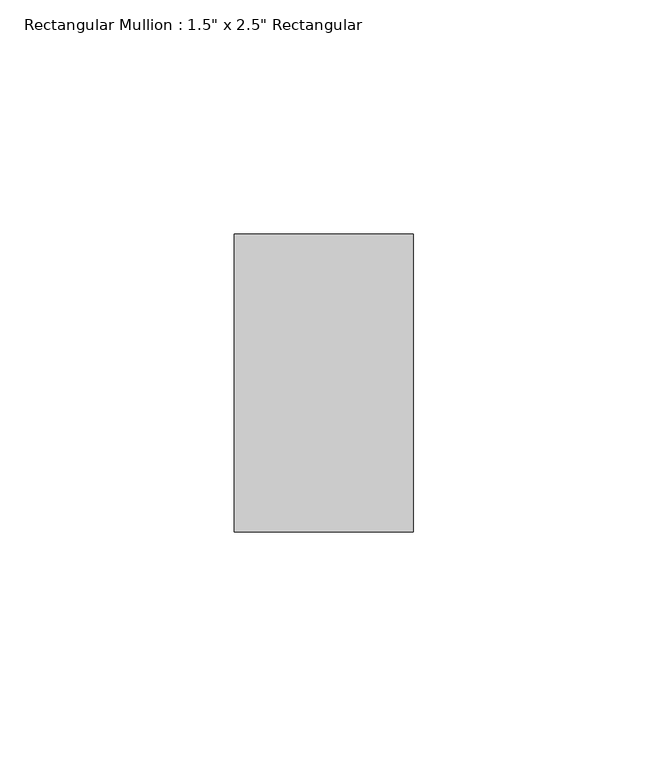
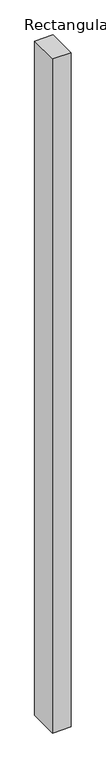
"""IFC4 building model written with IfcOpenShell, lengths in millimetres: member geometry."""

from ifc_helpers import new_model, si_unit, frame, origin, place, context, project, spatial, polyline, outline, extrude, source, transform, mapped, element, save


def member_b8a5b5c0(model_context):
    return source(origin(), model_context, "Body", "SweptSolid", [
        extrude(outline(polyline([(0.0, 31.75), (0.0, -31.75), (-38.1, -31.75), (-38.1, 31.75), (0.0, 31.75)])), frame((0.0, 0.0, -1466.85), z_axis=(0.0, 0.0, 1.0), x_axis=(1.0, 0.0, 0.0)), (0.0, 0.0, 1.0), 1466.85),
    ])


if __name__ == "__main__":
    model = new_model("IFC4")
    model_context = context("Model", 3, world=origin())
    ifc_project = project(units=[si_unit("LENGTHUNIT", "METRE", prefix="MILLI")], contexts=[model_context])
    site = spatial("IfcSite", under=ifc_project)
    building = spatial("IfcBuilding", under=site)
    placement = place(None, origin())
    member_shape = member_b8a5b5c0(model_context)
    element("IfcMember", 1, ObjectType="Rectangular Mullion : 1.5\" x 2.5\" Rectangular", at=placement, inside=building, context=model_context, shape_type="MappedRepresentation", body=[
        mapped(member_shape, transform((0.0, 0.0, 0.0), x_axis=(1.0, 0.0, 0.0), y_axis=(0.0, 1.0, 0.0), z_axis=(0.0, 0.0, 1.0))),
    ])
    save(model, "model.ifc")
